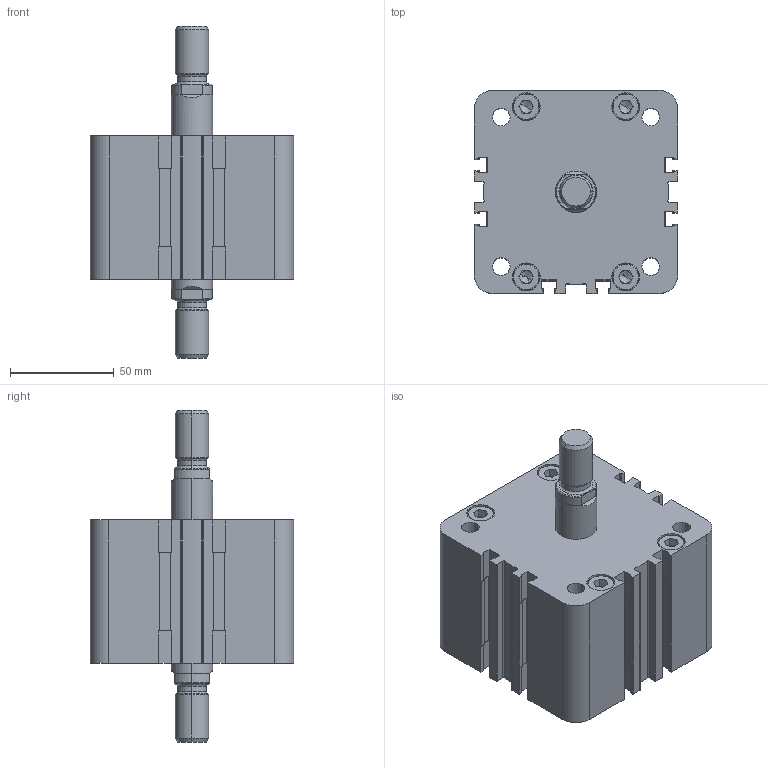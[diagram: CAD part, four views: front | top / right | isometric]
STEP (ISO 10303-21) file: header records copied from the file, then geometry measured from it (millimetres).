
FILE_DESCRIPTION (( 'STEP AP203' ), '1' );
FILE_NAME ('WJM0800015A.step', '2013-04-22T07:22:19', ( '' ), ( '' ), 'SwSTEP 2.0', 'SolidWorks 2012', '' );
FILE_SCHEMA (( 'CONFIG_CONTROL_DESIGN' ));
Length unit declared in the file: millimetre
Products named in the file (1): WJM0800015A
Bounding box: 98 x 98 x 160 mm (x, y, z)
Volume: 633394.6 mm3; surface area: 70982.2 mm2
Topology: 1 solids, 1 shells, 589 faces, 1573 edges, 1000 vertices
Faces by surface type: plane 287, cylinder 234, cone 44, torus 24
Entity records: 18466 total; most frequent: CARTESIAN_POINT 3339, DIRECTION 3283, ORIENTED_EDGE 3114, EDGE_CURVE 1557, AXIS2_PLACEMENT_3D 1168, VERTEX_POINT 1000, VECTOR 947, LINE 947
